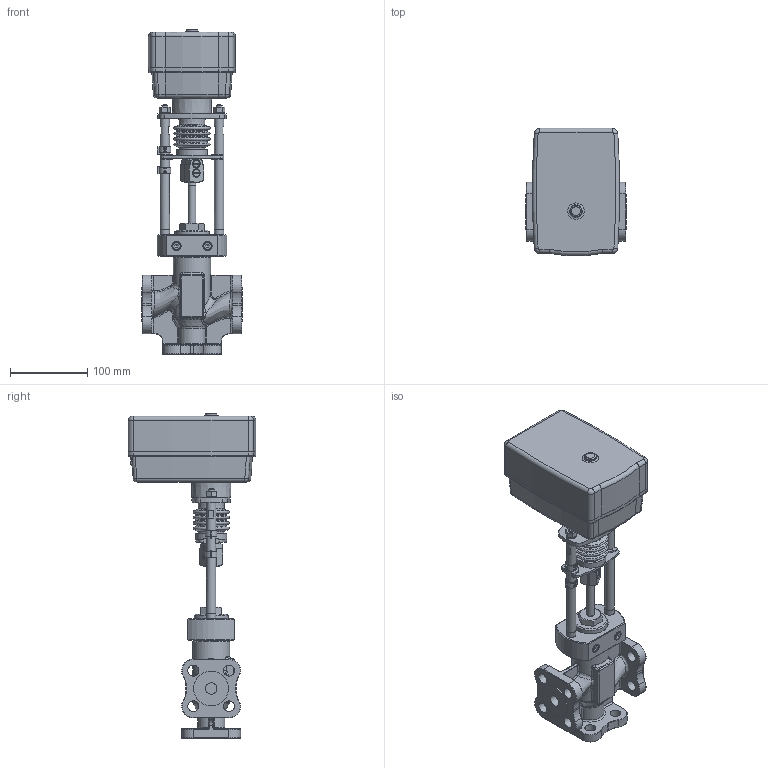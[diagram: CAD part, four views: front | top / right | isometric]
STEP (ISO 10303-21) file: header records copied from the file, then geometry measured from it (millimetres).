
FILE_DESCRIPTION(/* description */ ('Unknown'),/* implementation_level */ '2;1');
FILE_NAME(/* name */ 'TRV-3K-15-4-101',/* time_stamp */ '2023-01-16T11:32:48+03:00',/* author */ ('Unknown'),/* organization */ ('Unknown'),/* preprocessor_version */ 'ST-DEVELOPER v16.7',/* originating_system */ 'DEX',/* authorisation */ $);
FILE_SCHEMA (('AUTOMOTIVE_DESIGN {1 0 10303 214 3 1 1}'));
Length unit declared in the file: millimetre
Products named in the file (3): Êëàïàí DN15-3õ; Äó15-3õ; Ñáîðêà ¹5
Assembly tree (2 placements, depth 2):
  Êëàïàí DN15-3õ
    Äó15-3õ
    Ñáîðêà ¹5
Bounding box: 130 x 164.51 x 420.4 mm (x, y, z)
Volume: 2172489.4 mm3; surface area: 228370.4 mm2
Topology: 3 solids, 5 shells, 845 faces, 2057 edges, 1255 vertices
Faces by surface type: plane 325, cylinder 222, torus 126, bspline 89, cone 71, sphere 12
Full cylindrical faces by diameter (mm): 4.134 x2, 5 x3, 5.2 x5, 6.5 x1, 6.647 x2, 8 x5, 10 x4, 12 x2, 12.002 x4, 12.2 x2, 13.8 x2, 14 x12, 15 x4, 15.6 x1, 20 x1, 33.4 x1, 33.972 x1, 40 x1, 44 x2, 44.5 x1, 45 x3, 48 x1
Entity records: 29036 total; most frequent: CARTESIAN_POINT 7206, DIRECTION 3914, ORIENTED_EDGE 3750, EDGE_CURVE 1875, AXIS2_PLACEMENT_3D 1599, VERTEX_POINT 1200, FACE_BOUND 1047, EDGE_LOOP 1045
